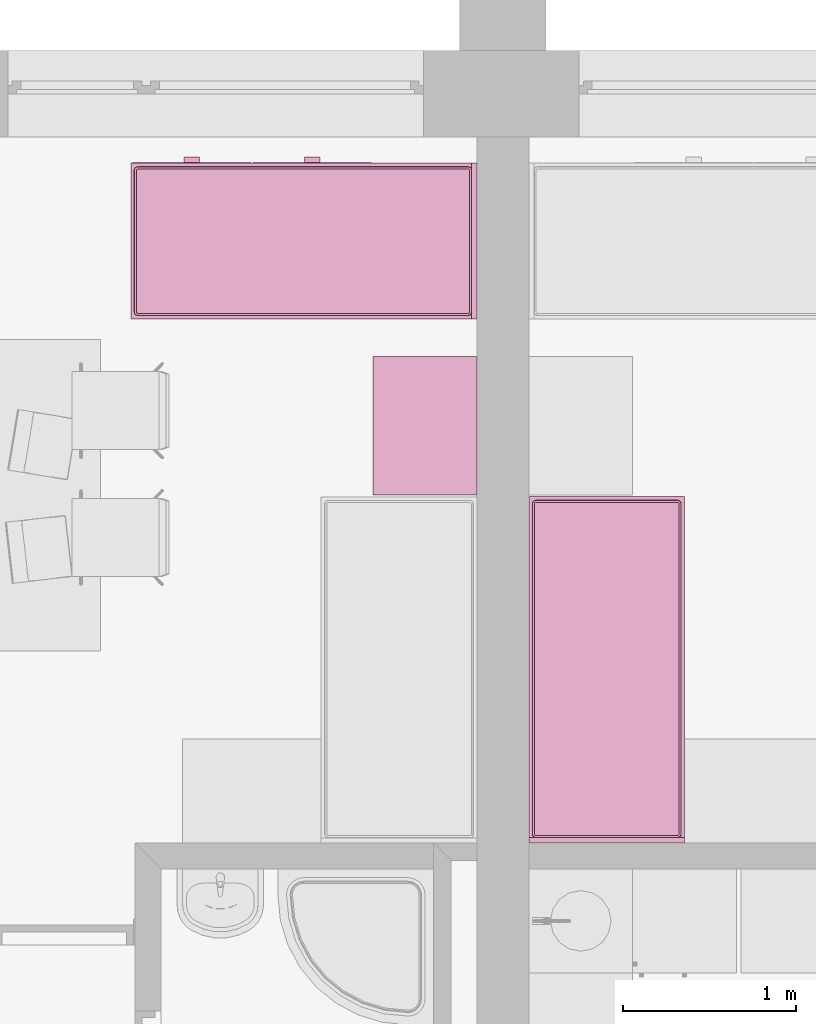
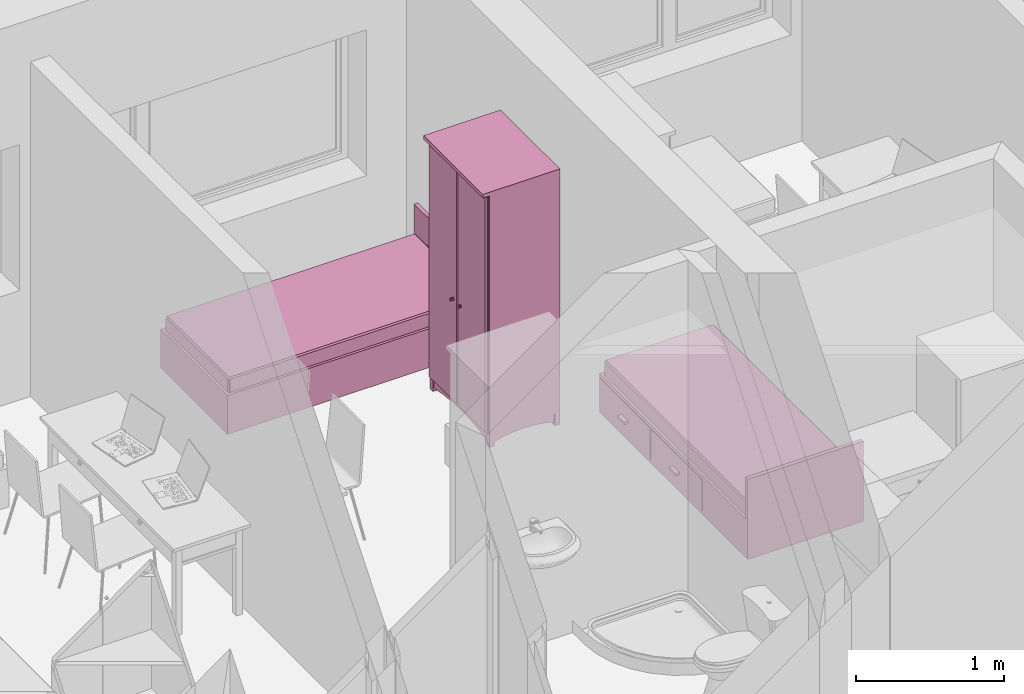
# One storey, part 142 of 172: 3 furnishings.
"""IFC2X3 building model written with IfcOpenShell, lengths in millimetres."""

from ifc_helpers import new_model, entity, si_unit, converted_unit, money_unit, direction, frame, origin_with_axes, place, context, subcontext, project, spatial, faceted_brep, source, transform, mapped, material, material_list, type_object, element, save


model = new_model("IFC2X3")

# Units and contexts
model_context = context("Model", 3, precision=1e-05, world=origin_with_axes(), true_north=direction((0.0, 1.0)))
body_context = subcontext(model_context, "Body", "Model", "MODEL_VIEW")
ifc_project = project(units=[si_unit("LENGTHUNIT", "METRE", prefix="MILLI"), si_unit("AREAUNIT", "SQUARE_METRE"), si_unit("VOLUMEUNIT", "CUBIC_METRE"), converted_unit("PLANEANGLEUNIT", "DEGREE", entity("IfcPlaneAngleMeasure", 0.0174532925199), si_unit("PLANEANGLEUNIT", "RADIAN"), dimensions=[0, 0, 0, 0, 0, 0, 0]), si_unit("SOLIDANGLEUNIT", "STERADIAN"), money_unit("USD"), converted_unit("TIMEUNIT", "Year", entity("IfcTimeMeasure", 31556926.0), si_unit("TIMEUNIT", "SECOND"), dimensions=[0, 0, 0, 0, 0, 0, 0]), si_unit("MASSUNIT", "GRAM"), si_unit("THERMODYNAMICTEMPERATUREUNIT", "DEGREE_CELSIUS"), si_unit("LUMINOUSINTENSITYUNIT", "LUMEN")], contexts=[model_context])

# Site, building, storey
site_placement = place(None, origin_with_axes())
site = spatial("IfcSite", under=ifc_project, at=site_placement, Name="Site", CompositionType="ELEMENT")
building_placement = place(site_placement, origin_with_axes())
building = spatial("IfcBuilding", under=site, at=building_placement, Name="Building", CompositionType="ELEMENT")
storey_placement = place(building_placement, frame((0.0, 0.0, 3200.0), z_axis=(0.0, 0.0, 1.0), x_axis=(1.0, 0.0, 0.0)))
storey = spatial("IfcBuildingStorey", under=building, at=storey_placement, Name="3KORRUS", CompositionType="ELEMENT", Elevation=3200.0)

# Furnishings
ifc_material = material(Name="Background")
ifc_material_list = material_list([ifc_material])
furnishing_element_type_1 = type_object("IfcFurnishingElementType", Name="Bed 19")
shared_shape_1 = source(origin_with_axes(), body_context, "Body", "Brep", [
    faceted_brep([(900.0, 1970.0, 0.0), (0.0, 1970.0, 0.0), (0.0, 2000.0, 0.0), (900.0, 2000.0, 0.0), (900.0, 1970.0, 660.0), (0.0, 1970.0, 660.0), (0.0, 2000.0, 660.0), (900.0, 2000.0, 660.0)], [[[0, 1, 2, 3]], [[1, 0, 4, 5]], [[2, 1, 5, 6]], [[3, 2, 6, 7]], [[0, 3, 7, 4]], [[5, 4, 7, 6]]]),
    faceted_brep([(900.0, 0.0, 0.0), (0.0, 0.0, 0.0), (0.0, 1970.0, 0.0), (900.0, 1970.0, 0.0), (900.0, 0.0, 320.0), (0.0, 0.0, 320.0), (0.0, 1970.0, 320.0), (900.0, 1970.0, 320.0)], [[[0, 1, 2, 3]], [[1, 0, 4, 5]], [[2, 1, 5, 6]], [[3, 2, 6, 7]], [[0, 3, 7, 4]], [[5, 4, 7, 6]]]),
    faceted_brep([(905.0, 10.0, 30.0), (900.0, 10.0, 30.0), (900.0, 695.0, 30.0), (905.0, 695.0, 30.0), (905.0, 10.0, 290.0), (900.0, 10.0, 290.0), (900.0, 695.0, 290.0), (905.0, 695.0, 290.0)], [[[0, 1, 2, 3]], [[1, 0, 4, 5]], [[2, 1, 5, 6]], [[3, 2, 6, 7]], [[0, 3, 7, 4]], [[5, 4, 7, 6]]]),
    faceted_brep([(935.0, 307.5, 150.0), (905.0, 307.5, 150.0), (905.0, 397.5, 150.0), (935.0, 397.5, 150.0), (935.0, 307.5, 170.0), (905.0, 307.5, 170.0), (905.0, 397.5, 170.0), (935.0, 397.5, 170.0)], [[[0, 1, 2, 3]], [[1, 0, 4, 5]], [[2, 1, 5, 6]], [[3, 2, 6, 7]], [[0, 3, 7, 4]], [[5, 4, 7, 6]]]),
    faceted_brep([(905.0, 705.0, 30.0), (900.0, 705.0, 30.0), (900.0, 1390.0, 30.0), (905.0, 1390.0, 30.0), (905.0, 705.0, 290.0), (900.0, 705.0, 290.0), (900.0, 1390.0, 290.0), (905.0, 1390.0, 290.0)], [[[0, 1, 2, 3]], [[1, 0, 4, 5]], [[2, 1, 5, 6]], [[3, 2, 6, 7]], [[0, 3, 7, 4]], [[5, 4, 7, 6]]]),
    faceted_brep([(935.0, 1002.5, 150.0), (905.0, 1002.5, 150.0), (905.0, 1092.5, 150.0), (935.0, 1092.5, 150.0), (935.0, 1002.5, 170.0), (905.0, 1002.5, 170.0), (905.0, 1092.5, 170.0), (935.0, 1092.5, 170.0)], [[[0, 1, 2, 3]], [[1, 0, 4, 5]], [[2, 1, 5, 6]], [[3, 2, 6, 7]], [[0, 3, 7, 4]], [[5, 4, 7, 6]]]),
    faceted_brep([(20.0, 40.0, 350.0), (20.0, 1950.0, 350.0), (21.522, 1957.654, 350.0), (25.858, 1964.142, 350.0), (32.346, 1968.478, 350.0), (40.0, 1970.0, 350.0), (860.0, 1970.0, 350.0), (867.654, 1968.478, 350.0), (874.142, 1964.142, 350.0), (878.478, 1957.654, 350.0), (880.0, 1950.0, 350.0), (880.0, 40.0, 350.0), (878.478, 32.346, 350.0), (874.142, 25.858, 350.0), (867.654, 21.522, 350.0), (860.0, 20.0, 350.0), (40.0, 20.0, 350.0), (32.346, 21.522, 350.0), (25.858, 25.858, 350.0), (21.522, 32.346, 350.0), (20.0, 40.0, 420.0), (20.0, 1950.0, 420.0), (21.522, 1957.654, 420.0), (25.858, 1964.142, 420.0), (32.346, 1968.478, 420.0), (40.0, 1970.0, 420.0), (860.0, 1970.0, 420.0), (867.654, 1968.478, 420.0), (874.142, 1964.142, 420.0), (878.478, 1957.654, 420.0), (880.0, 1950.0, 420.0), (880.0, 40.0, 420.0), (878.478, 32.346, 420.0), (874.142, 25.858, 420.0), (867.654, 21.522, 420.0), (860.0, 20.0, 420.0), (40.0, 20.0, 420.0), (32.346, 21.522, 420.0), (25.858, 25.858, 420.0), (21.522, 32.346, 420.0), (21.522, 40.15, 427.654), (21.522, 1949.85, 427.654), (22.956, 1957.06, 427.654), (26.955, 1963.045, 427.654), (32.94, 1967.044, 427.654), (40.15, 1968.478, 427.654), (859.85, 1968.478, 427.654), (867.06, 1967.044, 427.654), (873.045, 1963.045, 427.654), (877.044, 1957.06, 427.654), (878.478, 1949.85, 427.654), (878.478, 40.15, 427.654), (877.044, 32.94, 427.654), (873.045, 26.955, 427.654), (867.06, 22.956, 427.654), (859.85, 21.522, 427.654), (40.15, 21.522, 427.654), (32.94, 22.956, 427.654), (26.955, 26.955, 427.654), (22.956, 32.94, 427.654), (32.346, 41.216, 438.478), (32.346, 1948.784, 438.478), (33.152, 1952.836, 438.478), (34.759, 1955.241, 438.478), (37.164, 1956.848, 438.478), (41.216, 1957.654, 438.478), (858.784, 1957.654, 438.478), (862.836, 1956.848, 438.478), (865.241, 1955.241, 438.478), (866.848, 1952.836, 438.478), (867.654, 1948.784, 438.478), (867.654, 41.216, 438.478), (866.848, 37.164, 438.478), (865.241, 34.759, 438.478), (862.836, 33.152, 438.478), (858.784, 32.346, 438.478), (41.216, 32.346, 438.478), (37.164, 33.152, 438.478), (34.759, 34.759, 438.478), (33.152, 37.164, 438.478), (40.0, 41.97, 440.0), (40.0, 1948.03, 440.0), (40.327, 1949.673, 440.0), (40.0, 1950.0, 439.924), (41.97, 1950.0, 440.0), (858.03, 1950.0, 440.0), (859.673, 1949.673, 440.0), (860.0, 1950.0, 439.924), (860.0, 1948.03, 440.0), (860.0, 41.97, 440.0), (859.673, 40.327, 440.0), (860.0, 40.0, 439.924), (858.03, 40.0, 440.0), (41.97, 40.0, 440.0), (40.327, 40.327, 440.0), (40.0, 40.0, 439.924)], [[[0, 1, 2, 3, 4, 5, 6, 7, 8, 9, 10, 11, 12, 13, 14, 15, 16, 17, 18, 19]], [[1, 0, 20, 21]], [[2, 1, 21, 22]], [[3, 2, 22, 23]], [[4, 3, 23, 24]], [[5, 4, 24, 25]], [[6, 5, 25, 26]], [[7, 6, 26, 27]], [[8, 7, 27, 28]], [[9, 8, 28, 29]], [[10, 9, 29, 30]], [[11, 10, 30, 31]], [[12, 11, 31, 32]], [[13, 12, 32, 33]], [[14, 13, 33, 34]], [[15, 14, 34, 35]], [[16, 15, 35, 36]], [[17, 16, 36, 37]], [[18, 17, 37, 38]], [[19, 18, 38, 39]], [[0, 19, 39, 20]], [[21, 20, 40, 41]], [[22, 21, 41, 42]], [[23, 22, 42, 43]], [[24, 23, 43, 44]], [[25, 24, 44, 45]], [[26, 25, 45, 46]], [[27, 26, 46, 47]], [[28, 27, 47, 48]], [[29, 28, 48, 49]], [[30, 29, 49, 50]], [[31, 30, 50, 51]], [[32, 31, 51, 52]], [[33, 32, 52, 53]], [[34, 33, 53, 54]], [[35, 34, 54, 55]], [[36, 35, 55, 56]], [[37, 36, 56, 57]], [[38, 37, 57, 58]], [[39, 38, 58, 59]], [[20, 39, 59, 40]], [[41, 40, 60, 61]], [[42, 41, 61, 62]], [[43, 42, 62, 63]], [[44, 43, 63, 64]], [[45, 44, 64, 65]], [[46, 45, 65, 66]], [[47, 46, 66, 67]], [[48, 47, 67, 68]], [[49, 48, 68, 69]], [[50, 49, 69, 70]], [[51, 50, 70, 71]], [[52, 51, 71, 72]], [[53, 52, 72, 73]], [[54, 53, 73, 74]], [[55, 54, 74, 75]], [[56, 55, 75, 76]], [[57, 56, 76, 77]], [[58, 57, 77, 78]], [[59, 58, 78, 79]], [[40, 59, 79, 60]], [[61, 60, 80, 81]], [[62, 61, 81, 82, 83]], [[63, 62, 83]], [[64, 63, 83]], [[65, 64, 83, 82, 84]], [[66, 65, 84, 85]], [[67, 66, 85, 86, 87]], [[68, 67, 87]], [[69, 68, 87]], [[70, 69, 87, 86, 88]], [[71, 70, 88, 89]], [[72, 71, 89, 90, 91]], [[73, 72, 91]], [[74, 73, 91]], [[75, 74, 91, 90, 92]], [[76, 75, 92, 93]], [[77, 76, 93, 94, 95]], [[78, 77, 95]], [[79, 78, 95]], [[60, 79, 95, 94, 80]], [[81, 80, 94, 93, 92, 90, 89, 88, 86, 85, 84, 82]]]),
    faceted_brep([(20.0, 40.0, 350.0), (21.522, 32.346, 350.0), (25.858, 25.858, 350.0), (32.346, 21.522, 350.0), (40.0, 20.0, 350.0), (860.0, 20.0, 350.0), (867.654, 21.522, 350.0), (874.142, 25.858, 350.0), (878.478, 32.346, 350.0), (880.0, 40.0, 350.0), (880.0, 1950.0, 350.0), (878.478, 1957.654, 350.0), (874.142, 1964.142, 350.0), (867.654, 1968.478, 350.0), (860.0, 1970.0, 350.0), (40.0, 1970.0, 350.0), (32.346, 1968.478, 350.0), (25.858, 1964.142, 350.0), (21.522, 1957.654, 350.0), (20.0, 1950.0, 350.0), (20.0, 40.0, 320.0), (21.522, 32.346, 320.0), (25.858, 25.858, 320.0), (32.346, 21.522, 320.0), (40.0, 20.0, 320.0), (860.0, 20.0, 320.0), (867.654, 21.522, 320.0), (874.142, 25.858, 320.0), (878.478, 32.346, 320.0), (880.0, 40.0, 320.0), (880.0, 1950.0, 320.0), (878.478, 1957.654, 320.0), (874.142, 1964.142, 320.0), (867.654, 1968.478, 320.0), (860.0, 1970.0, 320.0), (40.0, 1970.0, 320.0), (32.346, 1968.478, 320.0), (25.858, 1964.142, 320.0), (21.522, 1957.654, 320.0), (20.0, 1950.0, 320.0)], [[[0, 1, 2, 3, 4, 5, 6, 7, 8, 9, 10, 11, 12, 13, 14, 15, 16, 17, 18, 19]], [[0, 20, 21, 1]], [[1, 21, 22, 2]], [[2, 22, 23, 3]], [[3, 23, 24, 4]], [[4, 24, 25, 5]], [[5, 25, 26, 6]], [[6, 26, 27, 7]], [[7, 27, 28, 8]], [[8, 28, 29, 9]], [[9, 29, 30, 10]], [[10, 30, 31, 11]], [[11, 31, 32, 12]], [[12, 32, 33, 13]], [[13, 33, 34, 14]], [[14, 34, 35, 15]], [[15, 35, 36, 16]], [[16, 36, 37, 17]], [[17, 37, 38, 18]], [[18, 38, 39, 19]], [[19, 39, 20, 0]], [[20, 39, 38, 37, 36, 35, 34, 33, 32, 31, 30, 29, 28, 27, 26, 25, 24, 23, 22, 21]]]),
])
furnishing_1_placement = place(storey_placement, frame((6909.70329669, -7216.37850445, 0.0), z_axis=(0.0, 0.0, 1.0), x_axis=(-1.0, 0.0, 0.0)))
element("IfcFurnishingElement", 1, at=furnishing_1_placement, inside=storey, type_object=furnishing_element_type_1, material=ifc_material_list, Name="FU - 013", context=body_context, shape_type="MappedRepresentation", body=[
    mapped(shared_shape_1, transform((0.0, 0.0, 0.0))),
])
furnishing_element_type_2 = type_object("IfcFurnishingElementType", Name="Cupboard 19")
shared_shape_2 = source(origin_with_axes(), body_context, "Body", "Brep", [
    faceted_brep([(-780.0, 600.0, 120.0), (-780.0, 580.0, 120.0), (-780.0, 580.0, 2050.0), (-780.0, 600.0, 2050.0), (-20.0, 600.0, 120.0), (-20.0, 580.0, 120.0), (-20.0, 580.0, 2050.0), (-20.0, 600.0, 2050.0)], [[[0, 1, 2, 3]], [[0, 4, 5, 1]], [[1, 5, 6, 2]], [[3, 2, 6, 7]], [[4, 0, 3, 7]], [[5, 4, 7, 6]]]),
    faceted_brep([(0.0, 50.0, 100.0), (-20.0, 50.0, 100.0), (-20.0, 600.0, 100.0), (0.0, 600.0, 100.0), (0.0, 50.0, 2070.0), (-20.0, 50.0, 2070.0), (-20.0, 600.0, 2070.0), (0.0, 600.0, 2070.0)], [[[0, 1, 2, 3]], [[1, 0, 4, 5]], [[2, 1, 5, 6]], [[3, 2, 6, 7]], [[0, 3, 7, 4]], [[5, 4, 7, 6]]]),
    faceted_brep([(-780.0, 50.0, 100.0), (-800.0, 50.0, 100.0), (-800.0, 600.0, 100.0), (-780.0, 600.0, 100.0), (-780.0, 50.0, 2070.0), (-800.0, 50.0, 2070.0), (-800.0, 600.0, 2070.0), (-780.0, 600.0, 2070.0)], [[[0, 1, 2, 3]], [[1, 0, 4, 5]], [[2, 1, 5, 6]], [[3, 2, 6, 7]], [[0, 3, 7, 4]], [[5, 4, 7, 6]]]),
    faceted_brep([(-20.0, 50.0, 100.0), (-780.0, 50.0, 100.0), (-780.0, 600.0, 100.0), (-20.0, 600.0, 100.0), (-20.0, 50.0, 120.0), (-780.0, 50.0, 120.0), (-780.0, 600.0, 120.0), (-20.0, 600.0, 120.0)], [[[0, 1, 2, 3]], [[1, 0, 4, 5]], [[2, 1, 5, 6]], [[3, 2, 6, 7]], [[0, 3, 7, 4]], [[5, 4, 7, 6]]]),
    faceted_brep([(-20.0, 50.0, 2050.0), (-780.0, 50.0, 2050.0), (-780.0, 600.0, 2050.0), (-20.0, 600.0, 2050.0), (-20.0, 50.0, 2070.0), (-780.0, 50.0, 2070.0), (-780.0, 600.0, 2070.0), (-20.0, 600.0, 2070.0)], [[[0, 1, 2, 3]], [[1, 0, 4, 5]], [[2, 1, 5, 6]], [[3, 2, 6, 7]], [[0, 3, 7, 4]], [[5, 4, 7, 6]]]),
    faceted_brep([(0.0, 600.0, 2070.0), (0.0, 600.0, 2100.0), (0.0, 0.0, 2100.0), (0.0, 0.0, 2070.0), (-800.0, 600.0, 2070.0), (-800.0, 600.0, 2100.0), (-800.0, 0.0, 2100.0), (-800.0, 0.0, 2070.0)], [[[0, 1, 2, 3]], [[4, 5, 1, 0]], [[1, 5, 6, 2]], [[3, 2, 6, 7]], [[0, 3, 7, 4]], [[7, 6, 5, 4]]]),
    faceted_brep([(-760.0, 590.0, 25.0), (-640.962, 590.0, 45.8), (-640.962, 570.0, 45.8), (-760.0, 570.0, 25.0), (-760.0, 590.0, 100.0), (-40.0, 590.0, 100.0), (-40.0, 590.0, 25.0), (-159.038, 590.0, 45.8), (-279.23, 590.0, 58.32), (-400.0, 590.0, 62.5), (-520.77, 590.0, 58.32), (-520.77, 570.0, 58.32), (-400.0, 570.0, 62.5), (-279.23, 570.0, 58.32), (-159.038, 570.0, 45.8), (-40.0, 570.0, 25.0), (-40.0, 570.0, 100.0), (-760.0, 570.0, 100.0)], [[[0, 1, 2, 3]], [[0, 4, 5, 6, 7, 8, 9, 10, 1]], [[1, 10, 11, 2]], [[3, 2, 11, 12, 13, 14, 15, 16, 17]], [[4, 0, 3, 17]], [[5, 4, 17, 16]], [[6, 5, 16, 15]], [[7, 6, 15, 14]], [[8, 7, 14, 13]], [[9, 8, 13, 12]], [[10, 9, 12, 11]]]),
    faceted_brep([(-760.0, 80.0, 25.0), (-640.962, 80.0, 45.8), (-640.962, 60.0, 45.8), (-760.0, 60.0, 25.0), (-760.0, 80.0, 100.0), (-40.0, 80.0, 100.0), (-40.0, 80.0, 25.0), (-159.038, 80.0, 45.8), (-279.23, 80.0, 58.32), (-400.0, 80.0, 62.5), (-520.77, 80.0, 58.32), (-520.77, 60.0, 58.32), (-400.0, 60.0, 62.5), (-279.23, 60.0, 58.32), (-159.038, 60.0, 45.8), (-40.0, 60.0, 25.0), (-40.0, 60.0, 100.0), (-760.0, 60.0, 100.0)], [[[0, 1, 2, 3]], [[0, 4, 5, 6, 7, 8, 9, 10, 1]], [[1, 10, 11, 2]], [[3, 2, 11, 12, 13, 14, 15, 16, 17]], [[4, 0, 3, 17]], [[5, 4, 17, 16]], [[6, 5, 16, 15]], [[7, 6, 15, 14]], [[8, 7, 14, 13]], [[9, 8, 13, 12]], [[10, 9, 12, 11]]]),
    faceted_brep([(-790.0, 90.0, 25.0), (-790.0, 141.266, 38.072), (-770.0, 141.266, 38.072), (-770.0, 90.0, 25.0), (-790.0, 90.0, 100.0), (-790.0, 560.0, 100.0), (-790.0, 560.0, 25.0), (-790.0, 508.734, 38.072), (-790.0, 456.752, 47.92), (-790.0, 404.257, 54.508), (-790.0, 351.453, 57.808), (-790.0, 298.547, 57.808), (-790.0, 245.743, 54.508), (-790.0, 193.248, 47.92), (-770.0, 193.248, 47.92), (-770.0, 245.743, 54.508), (-770.0, 298.547, 57.808), (-770.0, 351.453, 57.808), (-770.0, 404.257, 54.508), (-770.0, 456.752, 47.92), (-770.0, 508.734, 38.072), (-770.0, 560.0, 25.0), (-770.0, 560.0, 100.0), (-770.0, 90.0, 100.0)], [[[0, 1, 2, 3]], [[0, 4, 5, 6, 7, 8, 9, 10, 11, 12, 13, 1]], [[1, 13, 14, 2]], [[3, 2, 14, 15, 16, 17, 18, 19, 20, 21, 22, 23]], [[4, 0, 3, 23]], [[5, 4, 23, 22]], [[6, 5, 22, 21]], [[7, 6, 21, 20]], [[8, 7, 20, 19]], [[9, 8, 19, 18]], [[10, 9, 18, 17]], [[11, 10, 17, 16]], [[12, 11, 16, 15]], [[13, 12, 15, 14]]]),
    faceted_brep([(-30.0, 90.0, 25.0), (-30.0, 141.266, 38.072), (-10.0, 141.266, 38.072), (-10.0, 90.0, 25.0), (-30.0, 90.0, 100.0), (-30.0, 560.0, 100.0), (-30.0, 560.0, 25.0), (-30.0, 508.734, 38.072), (-30.0, 456.752, 47.92), (-30.0, 404.257, 54.508), (-30.0, 351.453, 57.808), (-30.0, 298.547, 57.808), (-30.0, 245.743, 54.508), (-30.0, 193.248, 47.92), (-10.0, 193.248, 47.92), (-10.0, 245.743, 54.508), (-10.0, 298.547, 57.808), (-10.0, 351.453, 57.808), (-10.0, 404.257, 54.508), (-10.0, 456.752, 47.92), (-10.0, 508.734, 38.072), (-10.0, 560.0, 25.0), (-10.0, 560.0, 100.0), (-10.0, 90.0, 100.0)], [[[0, 1, 2, 3]], [[0, 4, 5, 6, 7, 8, 9, 10, 11, 12, 13, 1]], [[1, 13, 14, 2]], [[3, 2, 14, 15, 16, 17, 18, 19, 20, 21, 22, 23]], [[4, 0, 3, 23]], [[5, 4, 23, 22]], [[6, 5, 22, 21]], [[7, 6, 21, 20]], [[8, 7, 20, 19]], [[9, 8, 19, 18]], [[10, 9, 18, 17]], [[11, 10, 17, 16]], [[12, 11, 16, 15]], [[13, 12, 15, 14]]]),
    faceted_brep([(-760.0, 560.0, 0.0), (-760.0, 600.0, 0.0), (-760.0, 600.0, 100.0), (-760.0, 560.0, 100.0), (-800.0, 560.0, 0.0), (-800.0, 600.0, 0.0), (-800.0, 600.0, 100.0), (-800.0, 560.0, 100.0)], [[[0, 1, 2, 3]], [[0, 4, 5, 1]], [[1, 5, 6, 2]], [[3, 2, 6, 7]], [[4, 0, 3, 7]], [[5, 4, 7, 6]]]),
    faceted_brep([(0.0, 560.0, 0.0), (0.0, 600.0, 0.0), (0.0, 600.0, 100.0), (0.0, 560.0, 100.0), (-40.0, 560.0, 0.0), (-40.0, 600.0, 0.0), (-40.0, 600.0, 100.0), (-40.0, 560.0, 100.0)], [[[0, 1, 2, 3]], [[0, 4, 5, 1]], [[1, 5, 6, 2]], [[3, 2, 6, 7]], [[4, 0, 3, 7]], [[5, 4, 7, 6]]]),
    faceted_brep([(-760.0, 50.0, 0.0), (-760.0, 90.0, 0.0), (-760.0, 90.0, 100.0), (-760.0, 50.0, 100.0), (-800.0, 50.0, 0.0), (-800.0, 90.0, 0.0), (-800.0, 90.0, 100.0), (-800.0, 50.0, 100.0)], [[[0, 1, 2, 3]], [[0, 4, 5, 1]], [[1, 5, 6, 2]], [[3, 2, 6, 7]], [[4, 0, 3, 7]], [[5, 4, 7, 6]]]),
    faceted_brep([(0.0, 50.0, 0.0), (0.0, 90.0, 0.0), (0.0, 90.0, 100.0), (0.0, 50.0, 100.0), (-40.0, 50.0, 0.0), (-40.0, 90.0, 0.0), (-40.0, 90.0, 100.0), (-40.0, 50.0, 100.0)], [[[0, 1, 2, 3]], [[0, 4, 5, 1]], [[1, 5, 6, 2]], [[3, 2, 6, 7]], [[4, 0, 3, 7]], [[5, 4, 7, 6]]]),
    faceted_brep([(-780.0, 580.0, 587.5), (-780.0, 50.0, 587.5), (-780.0, 50.0, 607.5), (-780.0, 580.0, 607.5), (-20.0, 580.0, 587.5), (-20.0, 50.0, 587.5), (-20.0, 50.0, 607.5), (-20.0, 580.0, 607.5)], [[[0, 1, 2, 3]], [[0, 4, 5, 1]], [[1, 5, 6, 2]], [[3, 2, 6, 7]], [[4, 0, 3, 7]], [[5, 4, 7, 6]]]),
    faceted_brep([(-780.0, 580.0, 1075.0), (-780.0, 50.0, 1075.0), (-780.0, 50.0, 1095.0), (-780.0, 580.0, 1095.0), (-20.0, 580.0, 1075.0), (-20.0, 50.0, 1075.0), (-20.0, 50.0, 1095.0), (-20.0, 580.0, 1095.0)], [[[0, 1, 2, 3]], [[0, 4, 5, 1]], [[1, 5, 6, 2]], [[3, 2, 6, 7]], [[4, 0, 3, 7]], [[5, 4, 7, 6]]]),
    faceted_brep([(-780.0, 580.0, 1562.5), (-780.0, 50.0, 1562.5), (-780.0, 50.0, 1582.5), (-780.0, 580.0, 1582.5), (-20.0, 580.0, 1562.5), (-20.0, 50.0, 1562.5), (-20.0, 50.0, 1582.5), (-20.0, 580.0, 1582.5)], [[[0, 1, 2, 3]], [[0, 4, 5, 1]], [[1, 5, 6, 2]], [[3, 2, 6, 7]], [[4, 0, 3, 7]], [[5, 4, 7, 6]]]),
    faceted_brep([(-789.5, 50.0, 110.5), (-789.5, 50.0, 2059.5), (-400.5, 50.0, 2059.5), (-400.5, 50.0, 110.5), (-789.5, 40.0, 110.5), (-789.5, 40.0, 2059.5), (-400.5, 40.0, 2059.5), (-400.5, 40.0, 110.5), (-779.5, 30.0, 120.5), (-779.5, 30.0, 2049.5), (-410.5, 30.0, 2049.5), (-410.5, 30.0, 120.5)], [[[0, 1, 2, 3]], [[1, 0, 4, 5]], [[2, 1, 5, 6]], [[3, 2, 6, 7]], [[0, 3, 7, 4]], [[5, 4, 8, 9]], [[6, 5, 9, 10]], [[7, 6, 10, 11]], [[4, 7, 11, 8]], [[10, 9, 8, 11]]]),
    faceted_brep([(-399.5, 50.0, 110.5), (-399.5, 50.0, 2059.5), (-10.5, 50.0, 2059.5), (-10.5, 50.0, 110.5), (-399.5, 40.0, 110.5), (-399.5, 40.0, 2059.5), (-10.5, 40.0, 2059.5), (-10.5, 40.0, 110.5), (-389.5, 30.0, 120.5), (-389.5, 30.0, 2049.5), (-20.5, 30.0, 2049.5), (-20.5, 30.0, 120.5)], [[[0, 1, 2, 3]], [[1, 0, 4, 5]], [[2, 1, 5, 6]], [[3, 2, 6, 7]], [[0, 3, 7, 4]], [[5, 4, 8, 9]], [[6, 5, 9, 10]], [[7, 6, 10, 11]], [[4, 7, 11, 8]], [[10, 9, 8, 11]]]),
    faceted_brep([(-339.608, 30.0, 954.0), (-344.0, 30.0, 949.608), (-350.0, 30.0, 948.0), (-356.0, 30.0, 949.608), (-360.392, 30.0, 954.0), (-362.0, 30.0, 960.0), (-360.392, 30.0, 966.0), (-356.0, 30.0, 970.392), (-350.0, 30.0, 972.0), (-344.0, 30.0, 970.392), (-339.608, 30.0, 966.0), (-338.0, 30.0, 960.0), (-339.608, 5.0, 954.0), (-344.0, 5.0, 949.608), (-350.0, 5.0, 948.0), (-356.0, 5.0, 949.608), (-360.392, 5.0, 954.0), (-362.0, 5.0, 960.0), (-360.392, 5.0, 966.0), (-356.0, 5.0, 970.392), (-350.0, 5.0, 972.0), (-344.0, 5.0, 970.392), (-339.608, 5.0, 966.0), (-338.0, 5.0, 960.0)], [[[0, 1, 2, 3, 4, 5, 6, 7, 8, 9, 10, 11]], [[1, 0, 12, 13]], [[2, 1, 13, 14]], [[3, 2, 14, 15]], [[4, 3, 15, 16]], [[5, 4, 16, 17]], [[6, 5, 17, 18]], [[7, 6, 18, 19]], [[8, 7, 19, 20]], [[9, 8, 20, 21]], [[10, 9, 21, 22]], [[11, 10, 22, 23]], [[0, 11, 23, 12]], [[12, 23, 22, 21, 20, 19, 18, 17, 16, 15, 14, 13]]]),
    faceted_brep([(-460.392, 30.0, 954.0), (-462.0, 30.0, 960.0), (-460.392, 30.0, 966.0), (-456.0, 30.0, 970.392), (-450.0, 30.0, 972.0), (-444.0, 30.0, 970.392), (-439.608, 30.0, 966.0), (-438.0, 30.0, 960.0), (-439.608, 30.0, 954.0), (-444.0, 30.0, 949.608), (-450.0, 30.0, 948.0), (-456.0, 30.0, 949.608), (-460.392, 5.0, 954.0), (-462.0, 5.0, 960.0), (-460.392, 5.0, 966.0), (-456.0, 5.0, 970.392), (-450.0, 5.0, 972.0), (-444.0, 5.0, 970.392), (-439.608, 5.0, 966.0), (-438.0, 5.0, 960.0), (-439.608, 5.0, 954.0), (-444.0, 5.0, 949.608), (-450.0, 5.0, 948.0), (-456.0, 5.0, 949.608)], [[[0, 1, 2, 3, 4, 5, 6, 7, 8, 9, 10, 11]], [[0, 12, 13, 1]], [[1, 13, 14, 2]], [[2, 14, 15, 3]], [[3, 15, 16, 4]], [[4, 16, 17, 5]], [[5, 17, 18, 6]], [[6, 18, 19, 7]], [[7, 19, 20, 8]], [[8, 20, 21, 9]], [[9, 21, 22, 10]], [[10, 22, 23, 11]], [[11, 23, 12, 0]], [[12, 23, 22, 21, 20, 19, 18, 17, 16, 15, 14, 13]]]),
])
furnishing_2_placement = place(storey_placement, frame((5109.70329669, -7207.41563755, 0.0), z_axis=(0.0, 0.0, 1.0), x_axis=(0.0, -1.0, 0.0)))
element("IfcFurnishingElement", 2, at=furnishing_2_placement, inside=storey, type_object=furnishing_element_type_2, material=ifc_material_list, Name="FU - 014", context=body_context, shape_type="MappedRepresentation", body=[
    mapped(shared_shape_2, transform((0.0, 0.0, 0.0))),
])
shared_shape_3 = source(origin_with_axes(), body_context, "Body", "Brep", [
    faceted_brep([(-900.0, 1970.0, 0.0), (-900.0, 2000.0, 0.0), (0.0, 2000.0, 0.0), (0.0, 1970.0, 0.0), (-900.0, 1970.0, 660.0), (-900.0, 2000.0, 660.0), (0.0, 2000.0, 660.0), (0.0, 1970.0, 660.0)], [[[0, 1, 2, 3]], [[0, 4, 5, 1]], [[1, 5, 6, 2]], [[2, 6, 7, 3]], [[3, 7, 4, 0]], [[7, 6, 5, 4]]]),
    faceted_brep([(-900.0, 0.0, 0.0), (-900.0, 1970.0, 0.0), (0.0, 1970.0, 0.0), (0.0, 0.0, 0.0), (-900.0, 0.0, 320.0), (-900.0, 1970.0, 320.0), (0.0, 1970.0, 320.0), (0.0, 0.0, 320.0)], [[[0, 1, 2, 3]], [[0, 4, 5, 1]], [[1, 5, 6, 2]], [[2, 6, 7, 3]], [[3, 7, 4, 0]], [[7, 6, 5, 4]]]),
    faceted_brep([(-905.0, 10.0, 30.0), (-905.0, 695.0, 30.0), (-900.0, 695.0, 30.0), (-900.0, 10.0, 30.0), (-905.0, 10.0, 290.0), (-905.0, 695.0, 290.0), (-900.0, 695.0, 290.0), (-900.0, 10.0, 290.0)], [[[0, 1, 2, 3]], [[0, 4, 5, 1]], [[1, 5, 6, 2]], [[2, 6, 7, 3]], [[3, 7, 4, 0]], [[7, 6, 5, 4]]]),
    faceted_brep([(-935.0, 307.5, 150.0), (-935.0, 397.5, 150.0), (-905.0, 397.5, 150.0), (-905.0, 307.5, 150.0), (-935.0, 307.5, 170.0), (-935.0, 397.5, 170.0), (-905.0, 397.5, 170.0), (-905.0, 307.5, 170.0)], [[[0, 1, 2, 3]], [[0, 4, 5, 1]], [[1, 5, 6, 2]], [[2, 6, 7, 3]], [[3, 7, 4, 0]], [[7, 6, 5, 4]]]),
    faceted_brep([(-905.0, 705.0, 30.0), (-905.0, 1390.0, 30.0), (-900.0, 1390.0, 30.0), (-900.0, 705.0, 30.0), (-905.0, 705.0, 290.0), (-905.0, 1390.0, 290.0), (-900.0, 1390.0, 290.0), (-900.0, 705.0, 290.0)], [[[0, 1, 2, 3]], [[0, 4, 5, 1]], [[1, 5, 6, 2]], [[2, 6, 7, 3]], [[3, 7, 4, 0]], [[7, 6, 5, 4]]]),
    faceted_brep([(-935.0, 1002.5, 150.0), (-935.0, 1092.5, 150.0), (-905.0, 1092.5, 150.0), (-905.0, 1002.5, 150.0), (-935.0, 1002.5, 170.0), (-935.0, 1092.5, 170.0), (-905.0, 1092.5, 170.0), (-905.0, 1002.5, 170.0)], [[[0, 1, 2, 3]], [[0, 4, 5, 1]], [[1, 5, 6, 2]], [[2, 6, 7, 3]], [[3, 7, 4, 0]], [[7, 6, 5, 4]]]),
    faceted_brep([(-20.0, 40.0, 350.0), (-21.522, 32.346, 350.0), (-25.858, 25.858, 350.0), (-32.346, 21.522, 350.0), (-40.0, 20.0, 350.0), (-860.0, 20.0, 350.0), (-867.654, 21.522, 350.0), (-874.142, 25.858, 350.0), (-878.478, 32.346, 350.0), (-880.0, 40.0, 350.0), (-880.0, 1950.0, 350.0), (-878.478, 1957.654, 350.0), (-874.142, 1964.142, 350.0), (-867.654, 1968.478, 350.0), (-860.0, 1970.0, 350.0), (-40.0, 1970.0, 350.0), (-32.346, 1968.478, 350.0), (-25.858, 1964.142, 350.0), (-21.522, 1957.654, 350.0), (-20.0, 1950.0, 350.0), (-20.0, 40.0, 420.0), (-21.522, 32.346, 420.0), (-25.858, 25.858, 420.0), (-32.346, 21.522, 420.0), (-40.0, 20.0, 420.0), (-860.0, 20.0, 420.0), (-867.654, 21.522, 420.0), (-874.142, 25.858, 420.0), (-878.478, 32.346, 420.0), (-880.0, 40.0, 420.0), (-880.0, 1950.0, 420.0), (-878.478, 1957.654, 420.0), (-874.142, 1964.142, 420.0), (-867.654, 1968.478, 420.0), (-860.0, 1970.0, 420.0), (-40.0, 1970.0, 420.0), (-32.346, 1968.478, 420.0), (-25.858, 1964.142, 420.0), (-21.522, 1957.654, 420.0), (-20.0, 1950.0, 420.0), (-21.522, 40.15, 427.654), (-22.956, 32.94, 427.654), (-26.955, 26.955, 427.654), (-32.94, 22.956, 427.654), (-40.15, 21.522, 427.654), (-859.85, 21.522, 427.654), (-867.06, 22.956, 427.654), (-873.045, 26.955, 427.654), (-877.044, 32.94, 427.654), (-878.478, 40.15, 427.654), (-878.478, 1949.85, 427.654), (-877.044, 1957.06, 427.654), (-873.045, 1963.045, 427.654), (-867.06, 1967.044, 427.654), (-859.85, 1968.478, 427.654), (-40.15, 1968.478, 427.654), (-32.94, 1967.044, 427.654), (-26.955, 1963.045, 427.654), (-22.956, 1957.06, 427.654), (-21.522, 1949.85, 427.654), (-32.346, 41.216, 438.478), (-33.152, 37.164, 438.478), (-34.759, 34.759, 438.478), (-37.164, 33.152, 438.478), (-41.216, 32.346, 438.478), (-858.784, 32.346, 438.478), (-862.836, 33.152, 438.478), (-865.241, 34.759, 438.478), (-866.848, 37.164, 438.478), (-867.654, 41.216, 438.478), (-867.654, 1948.784, 438.478), (-866.848, 1952.836, 438.478), (-865.241, 1955.241, 438.478), (-862.836, 1956.848, 438.478), (-858.784, 1957.654, 438.478), (-41.216, 1957.654, 438.478), (-37.164, 1956.848, 438.478), (-34.759, 1955.241, 438.478), (-33.152, 1952.836, 438.478), (-32.346, 1948.784, 438.478), (-40.0, 41.97, 440.0), (-40.327, 40.327, 440.0), (-40.0, 40.0, 439.924), (-41.97, 40.0, 440.0), (-858.03, 40.0, 440.0), (-859.673, 40.327, 440.0), (-860.0, 40.0, 439.924), (-860.0, 41.97, 440.0), (-860.0, 1948.03, 440.0), (-859.673, 1949.673, 440.0), (-860.0, 1950.0, 439.924), (-858.03, 1950.0, 440.0), (-41.97, 1950.0, 440.0), (-40.327, 1949.673, 440.0), (-40.0, 1950.0, 439.924), (-40.0, 1948.03, 440.0)], [[[0, 1, 2, 3, 4, 5, 6, 7, 8, 9, 10, 11, 12, 13, 14, 15, 16, 17, 18, 19]], [[0, 20, 21, 1]], [[1, 21, 22, 2]], [[2, 22, 23, 3]], [[3, 23, 24, 4]], [[4, 24, 25, 5]], [[5, 25, 26, 6]], [[6, 26, 27, 7]], [[7, 27, 28, 8]], [[8, 28, 29, 9]], [[9, 29, 30, 10]], [[10, 30, 31, 11]], [[11, 31, 32, 12]], [[12, 32, 33, 13]], [[13, 33, 34, 14]], [[14, 34, 35, 15]], [[15, 35, 36, 16]], [[16, 36, 37, 17]], [[17, 37, 38, 18]], [[18, 38, 39, 19]], [[19, 39, 20, 0]], [[20, 40, 41, 21]], [[21, 41, 42, 22]], [[22, 42, 43, 23]], [[23, 43, 44, 24]], [[24, 44, 45, 25]], [[25, 45, 46, 26]], [[26, 46, 47, 27]], [[27, 47, 48, 28]], [[28, 48, 49, 29]], [[29, 49, 50, 30]], [[30, 50, 51, 31]], [[31, 51, 52, 32]], [[32, 52, 53, 33]], [[33, 53, 54, 34]], [[34, 54, 55, 35]], [[35, 55, 56, 36]], [[36, 56, 57, 37]], [[37, 57, 58, 38]], [[38, 58, 59, 39]], [[39, 59, 40, 20]], [[40, 60, 61, 41]], [[41, 61, 62, 42]], [[42, 62, 63, 43]], [[43, 63, 64, 44]], [[44, 64, 65, 45]], [[45, 65, 66, 46]], [[46, 66, 67, 47]], [[47, 67, 68, 48]], [[48, 68, 69, 49]], [[49, 69, 70, 50]], [[50, 70, 71, 51]], [[51, 71, 72, 52]], [[52, 72, 73, 53]], [[53, 73, 74, 54]], [[54, 74, 75, 55]], [[55, 75, 76, 56]], [[56, 76, 77, 57]], [[57, 77, 78, 58]], [[58, 78, 79, 59]], [[59, 79, 60, 40]], [[60, 80, 81, 82, 61]], [[61, 82, 62]], [[62, 82, 63]], [[63, 82, 81, 83, 64]], [[64, 83, 84, 65]], [[65, 84, 85, 86, 66]], [[66, 86, 67]], [[67, 86, 68]], [[68, 86, 85, 87, 69]], [[69, 87, 88, 70]], [[70, 88, 89, 90, 71]], [[71, 90, 72]], [[72, 90, 73]], [[73, 90, 89, 91, 74]], [[74, 91, 92, 75]], [[75, 92, 93, 94, 76]], [[76, 94, 77]], [[77, 94, 78]], [[78, 94, 93, 95, 79]], [[79, 95, 80, 60]], [[95, 93, 92, 91, 89, 88, 87, 85, 84, 83, 81, 80]]]),
    faceted_brep([(-20.0, 40.0, 350.0), (-20.0, 1950.0, 350.0), (-21.522, 1957.654, 350.0), (-25.858, 1964.142, 350.0), (-32.346, 1968.478, 350.0), (-40.0, 1970.0, 350.0), (-860.0, 1970.0, 350.0), (-867.654, 1968.478, 350.0), (-874.142, 1964.142, 350.0), (-878.478, 1957.654, 350.0), (-880.0, 1950.0, 350.0), (-880.0, 40.0, 350.0), (-878.478, 32.346, 350.0), (-874.142, 25.858, 350.0), (-867.654, 21.522, 350.0), (-860.0, 20.0, 350.0), (-40.0, 20.0, 350.0), (-32.346, 21.522, 350.0), (-25.858, 25.858, 350.0), (-21.522, 32.346, 350.0), (-20.0, 40.0, 320.0), (-20.0, 1950.0, 320.0), (-21.522, 1957.654, 320.0), (-25.858, 1964.142, 320.0), (-32.346, 1968.478, 320.0), (-40.0, 1970.0, 320.0), (-860.0, 1970.0, 320.0), (-867.654, 1968.478, 320.0), (-874.142, 1964.142, 320.0), (-878.478, 1957.654, 320.0), (-880.0, 1950.0, 320.0), (-880.0, 40.0, 320.0), (-878.478, 32.346, 320.0), (-874.142, 25.858, 320.0), (-867.654, 21.522, 320.0), (-860.0, 20.0, 320.0), (-40.0, 20.0, 320.0), (-32.346, 21.522, 320.0), (-25.858, 25.858, 320.0), (-21.522, 32.346, 320.0)], [[[0, 1, 2, 3, 4, 5, 6, 7, 8, 9, 10, 11, 12, 13, 14, 15, 16, 17, 18, 19]], [[1, 0, 20, 21]], [[2, 1, 21, 22]], [[3, 2, 22, 23]], [[4, 3, 23, 24]], [[5, 4, 24, 25]], [[6, 5, 25, 26]], [[7, 6, 26, 27]], [[8, 7, 27, 28]], [[9, 8, 28, 29]], [[10, 9, 29, 30]], [[11, 10, 30, 31]], [[12, 11, 31, 32]], [[13, 12, 32, 33]], [[14, 13, 33, 34]], [[15, 14, 34, 35]], [[16, 15, 35, 36]], [[17, 16, 36, 37]], [[18, 17, 37, 38]], [[19, 18, 38, 39]], [[0, 19, 39, 20]], [[20, 39, 38, 37, 36, 35, 34, 33, 32, 31, 30, 29, 28, 27, 26, 25, 24, 23, 22, 21]]]),
])
furnishing_3_placement = place(storey_placement, frame((3709.70329669, -6189.6041088, 0.0), z_axis=(0.0, 0.0, 1.0), x_axis=(0.0, -1.0, 0.0)))
element("IfcFurnishingElement", 3, at=furnishing_3_placement, inside=storey, type_object=furnishing_element_type_1, material=ifc_material_list, Name="FU - 013", context=body_context, shape_type="MappedRepresentation", body=[
    mapped(shared_shape_3, transform((0.0, 0.0, 0.0))),
])

save(model, "model.ifc")
